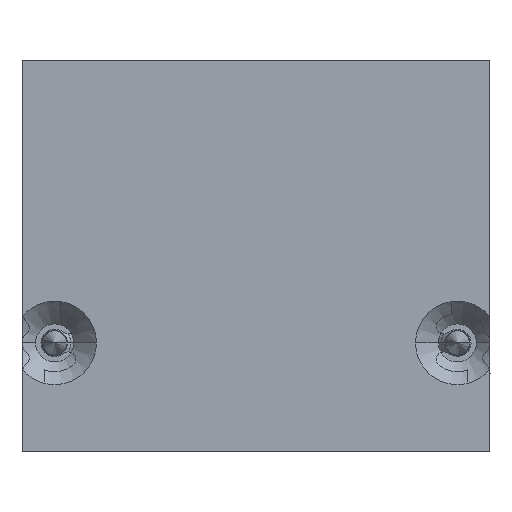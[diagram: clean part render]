
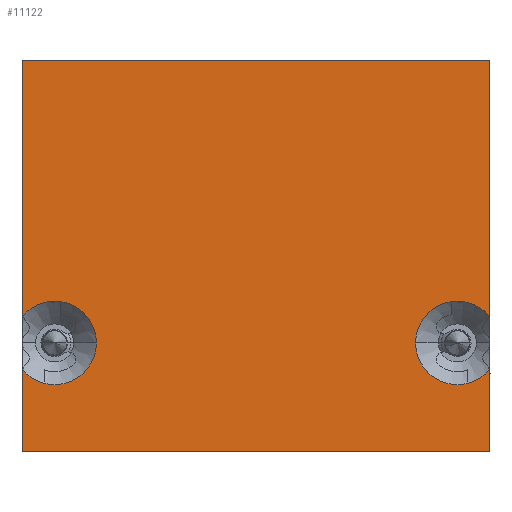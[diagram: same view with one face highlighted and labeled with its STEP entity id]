
A CAD part, front view. The second image highlights one B-rep face of the part: STEP entity #11122.
In plain terms, the highlighted planar face has unit normal (0, -1, 0).
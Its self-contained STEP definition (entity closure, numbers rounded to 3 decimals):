
#11 = CARTESIAN_POINT ( 'NONE',  ( -146.54, -224.854, 25.602 ) ) ;
#475 = EDGE_CURVE ( 'NONE', #3060, #22257, #20412, .T. ) ;
#754 = AXIS2_PLACEMENT_3D ( 'NONE', #5929, #23286, #16651 ) ;
#1379 = CARTESIAN_POINT ( 'NONE',  ( -177.146, -224.854, 25.797 ) ) ;
#1560 = VERTEX_POINT ( 'NONE', #15702 ) ;
#1871 = CARTESIAN_POINT ( 'NONE',  ( -146.341, -224.854, 2.012 ) ) ;
#2095 = VERTEX_POINT ( 'NONE', #5281 ) ;
#2189 = ORIENTED_EDGE ( 'NONE', *, *, #21334, .F. ) ;
#2362 = AXIS2_PLACEMENT_3D ( 'NONE', #16538, #8706, #8183 ) ;
#2804 = CIRCLE ( 'NONE', #3696, 0.2 ) ;
#3060 = VERTEX_POINT ( 'NONE', #11849 ) ;
#3136 = DIRECTION ( 'NONE',  ( 0., 0., -1. ) ) ;
#3266 = EDGE_CURVE ( 'NONE', #4063, #14485, #18501, .T. ) ;
#3510 = VECTOR ( 'NONE', #21117, 1000. ) ;
#3574 = PLANE ( 'NONE',  #12255 ) ;
#3696 = AXIS2_PLACEMENT_3D ( 'NONE', #21763, #17622, #9142 ) ;
#3700 = EDGE_CURVE ( 'NONE', #22257, #10381, #8808, .T. ) ;
#3709 = DIRECTION ( 'NONE',  ( 1., 0., 0. ) ) ;
#3802 = VERTEX_POINT ( 'NONE', #5912 ) ;
#3884 = LINE ( 'NONE', #12649, #3510 ) ;
#4063 = VERTEX_POINT ( 'NONE', #25197 ) ;
#4350 = CARTESIAN_POINT ( 'NONE',  ( -146.341, -224.854, 5.458 ) ) ;
#5088 = CARTESIAN_POINT ( 'NONE',  ( -172.252, -224.854, 7.18 ) ) ;
#5106 = ORIENTED_EDGE ( 'NONE', *, *, #22338, .T. ) ;
#5281 = CARTESIAN_POINT ( 'NONE',  ( -146.341, -224.854, 8.902 ) ) ;
#5323 = ORIENTED_EDGE ( 'NONE', *, *, #3266, .F. ) ;
#5834 = CARTESIAN_POINT ( 'NONE',  ( -177.146, -224.854, 12.996 ) ) ;
#5912 = CARTESIAN_POINT ( 'NONE',  ( -146.54, -224.854, 25.802 ) ) ;
#5929 = CARTESIAN_POINT ( 'NONE',  ( -175.002, -224.854, 7.18 ) ) ;
#6060 = DIRECTION ( 'NONE',  ( 0., 0., 1. ) ) ;
#6086 = AXIS2_PLACEMENT_3D ( 'NONE', #11, #21247, #10850 ) ;
#6758 = ORIENTED_EDGE ( 'NONE', *, *, #12681, .F. ) ;
#7689 = VERTEX_POINT ( 'NONE', #4350 ) ;
#7709 = VECTOR ( 'NONE', #18329, 1000. ) ;
#7714 = ORIENTED_EDGE ( 'NONE', *, *, #18547, .F. ) ;
#7724 = FACE_OUTER_BOUND ( 'NONE', #16891, .T. ) ;
#8132 = DIRECTION ( 'NONE',  ( 0., 1., 0. ) ) ;
#8171 = EDGE_CURVE ( 'NONE', #7689, #26530, #24718, .T. ) ;
#8183 = DIRECTION ( 'NONE',  ( -1., 0., 0. ) ) ;
#8415 = DIRECTION ( 'NONE',  ( 0., 1., 0. ) ) ;
#8706 = DIRECTION ( 'NONE',  ( 0., 1., 0. ) ) ;
#8729 = ORIENTED_EDGE ( 'NONE', *, *, #8171, .T. ) ;
#8808 = CIRCLE ( 'NONE', #22100, 0.2 ) ;
#9142 = DIRECTION ( 'NONE',  ( 0., 0., 1. ) ) ;
#9604 = DIRECTION ( 'NONE',  ( -1., 0., 0. ) ) ;
#9893 = CARTESIAN_POINT ( 'NONE',  ( -177.088, -224.854, 25.743 ) ) ;
#10381 = VERTEX_POINT ( 'NONE', #9893 ) ;
#10460 = CARTESIAN_POINT ( 'NONE',  ( -161.743, -224.854, 25.802 ) ) ;
#10521 = CIRCLE ( 'NONE', #14959, 0.2 ) ;
#10688 = VECTOR ( 'NONE', #14469, 1000. ) ;
#10689 = CARTESIAN_POINT ( 'NONE',  ( -177.146, -224.854, 25.602 ) ) ;
#10850 = DIRECTION ( 'NONE',  ( 0., 0., 1. ) ) ;
#10962 = VERTEX_POINT ( 'NONE', #5088 ) ;
#11122 = ADVANCED_FACE ( 'NONE', ( #7724 ), #3574, .T. ) ;
#11478 = DIRECTION ( 'NONE',  ( 0., 0., -1. ) ) ;
#11677 = VERTEX_POINT ( 'NONE', #20474 ) ;
#11849 = CARTESIAN_POINT ( 'NONE',  ( -177.146, -224.854, 8.902 ) ) ;
#12243 = CIRCLE ( 'NONE', #25062, 2.75 ) ;
#12255 = AXIS2_PLACEMENT_3D ( 'NONE', #14279, #22729, #3709 ) ;
#12286 = VECTOR ( 'NONE', #11478, 1000. ) ;
#12649 = CARTESIAN_POINT ( 'NONE',  ( -161.743, -224.854, 0. ) ) ;
#12681 = EDGE_CURVE ( 'NONE', #7689, #24226, #24224, .T. ) ;
#13121 = LINE ( 'NONE', #1871, #12286 ) ;
#13812 = LINE ( 'NONE', #10460, #20769 ) ;
#13842 = VERTEX_POINT ( 'NONE', #23482 ) ;
#14102 = CIRCLE ( 'NONE', #6086, 0.2 ) ;
#14181 = EDGE_CURVE ( 'NONE', #10381, #13842, #10521, .T. ) ;
#14279 = CARTESIAN_POINT ( 'NONE',  ( -161.743, -224.854, -8.877 ) ) ;
#14469 = DIRECTION ( 'NONE',  ( 0., 0., 1. ) ) ;
#14485 = VERTEX_POINT ( 'NONE', #27117 ) ;
#14709 = EDGE_CURVE ( 'NONE', #13842, #3802, #13812, .T. ) ;
#14959 = AXIS2_PLACEMENT_3D ( 'NONE', #17064, #8415, #6060 ) ;
#15157 = VECTOR ( 'NONE', #3136, 1000. ) ;
#15624 = ORIENTED_EDGE ( 'NONE', *, *, #14181, .F. ) ;
#15702 = CARTESIAN_POINT ( 'NONE',  ( -146.399, -224.854, 25.743 ) ) ;
#15731 = EDGE_CURVE ( 'NONE', #24226, #4063, #3884, .T. ) ;
#15781 = EDGE_CURVE ( 'NONE', #3802, #1560, #14102, .T. ) ;
#16538 = CARTESIAN_POINT ( 'NONE',  ( -148.485, -224.854, 7.18 ) ) ;
#16651 = DIRECTION ( 'NONE',  ( -1., 0., 0. ) ) ;
#16891 = EDGE_LOOP ( 'NONE', ( #8729, #21229, #2189, #7714, #26953, #19567, #15624, #17495, #21353, #16988, #5106, #5323, #18342, #6758 ) ) ;
#16988 = ORIENTED_EDGE ( 'NONE', *, *, #24693, .T. ) ;
#17055 = DIRECTION ( 'NONE',  ( -1., 0., 0. ) ) ;
#17064 = CARTESIAN_POINT ( 'NONE',  ( -176.946, -224.854, 25.602 ) ) ;
#17495 = ORIENTED_EDGE ( 'NONE', *, *, #3700, .F. ) ;
#17622 = DIRECTION ( 'NONE',  ( 0., 1., 0. ) ) ;
#17749 = CARTESIAN_POINT ( 'NONE',  ( -146.341, -224.854, 2.012 ) ) ;
#18329 = DIRECTION ( 'NONE',  ( 0., 0., 1. ) ) ;
#18342 = ORIENTED_EDGE ( 'NONE', *, *, #15731, .F. ) ;
#18490 = CIRCLE ( 'NONE', #754, 2.75 ) ;
#18501 = LINE ( 'NONE', #5834, #10688 ) ;
#18547 = EDGE_CURVE ( 'NONE', #1560, #11677, #2804, .T. ) ;
#18975 = CARTESIAN_POINT ( 'NONE',  ( -151.235, -224.854, 7.18 ) ) ;
#19567 = ORIENTED_EDGE ( 'NONE', *, *, #14709, .F. ) ;
#20412 = LINE ( 'NONE', #1379, #7709 ) ;
#20474 = CARTESIAN_POINT ( 'NONE',  ( -146.341, -224.854, 25.615 ) ) ;
#20769 = VECTOR ( 'NONE', #24859, 1000. ) ;
#21117 = DIRECTION ( 'NONE',  ( -1., 0., 0. ) ) ;
#21229 = ORIENTED_EDGE ( 'NONE', *, *, #26102, .T. ) ;
#21247 = DIRECTION ( 'NONE',  ( 0., 1., 0. ) ) ;
#21334 = EDGE_CURVE ( 'NONE', #11677, #2095, #13121, .T. ) ;
#21353 = ORIENTED_EDGE ( 'NONE', *, *, #475, .F. ) ;
#21763 = CARTESIAN_POINT ( 'NONE',  ( -146.54, -224.854, 25.602 ) ) ;
#21768 = DIRECTION ( 'NONE',  ( 0., 0., 1. ) ) ;
#22100 = AXIS2_PLACEMENT_3D ( 'NONE', #23719, #23987, #21768 ) ;
#22257 = VERTEX_POINT ( 'NONE', #10689 ) ;
#22338 = EDGE_CURVE ( 'NONE', #10962, #14485, #18490, .T. ) ;
#22729 = DIRECTION ( 'NONE',  ( 0., -1., 0. ) ) ;
#22865 = CARTESIAN_POINT ( 'NONE',  ( -148.485, -224.854, 7.18 ) ) ;
#23286 = DIRECTION ( 'NONE',  ( 0., 1., 0. ) ) ;
#23482 = CARTESIAN_POINT ( 'NONE',  ( -176.946, -224.854, 25.802 ) ) ;
#23719 = CARTESIAN_POINT ( 'NONE',  ( -176.946, -224.854, 25.602 ) ) ;
#23987 = DIRECTION ( 'NONE',  ( 0., 1., 0. ) ) ;
#24126 = CARTESIAN_POINT ( 'NONE',  ( -146.341, -224.854, 0. ) ) ;
#24165 = CARTESIAN_POINT ( 'NONE',  ( -175.002, -224.854, 7.18 ) ) ;
#24224 = LINE ( 'NONE', #17749, #15157 ) ;
#24226 = VERTEX_POINT ( 'NONE', #24126 ) ;
#24693 = EDGE_CURVE ( 'NONE', #3060, #10962, #12243, .T. ) ;
#24718 = CIRCLE ( 'NONE', #26930, 2.75 ) ;
#24859 = DIRECTION ( 'NONE',  ( 1., 0., 0. ) ) ;
#25062 = AXIS2_PLACEMENT_3D ( 'NONE', #24165, #26510, #9604 ) ;
#25197 = CARTESIAN_POINT ( 'NONE',  ( -177.146, -224.854, 0. ) ) ;
#26102 = EDGE_CURVE ( 'NONE', #26530, #2095, #27173, .T. ) ;
#26510 = DIRECTION ( 'NONE',  ( 0., 1., 0. ) ) ;
#26530 = VERTEX_POINT ( 'NONE', #18975 ) ;
#26930 = AXIS2_PLACEMENT_3D ( 'NONE', #22865, #8132, #17055 ) ;
#26953 = ORIENTED_EDGE ( 'NONE', *, *, #15781, .F. ) ;
#27117 = CARTESIAN_POINT ( 'NONE',  ( -177.146, -224.854, 5.458 ) ) ;
#27173 = CIRCLE ( 'NONE', #2362, 2.75 ) ;
